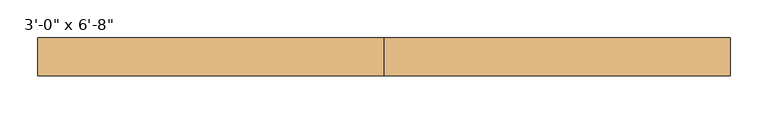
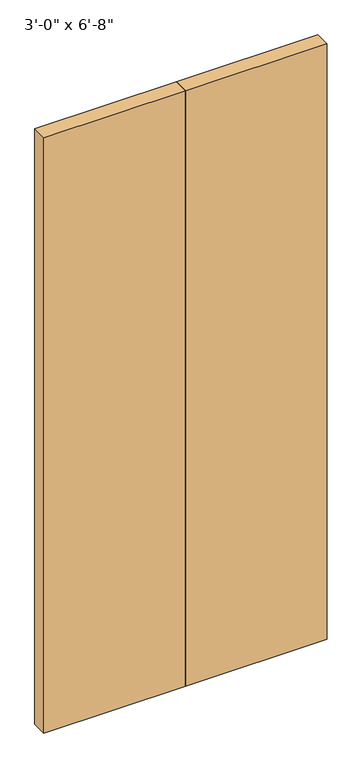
"""IFC4 building model written with IfcOpenShell, lengths in millimetres: door geometry."""

from ifc_helpers import new_model, si_unit, origin, origin_with_axes, place, context, project, spatial, polyline, outline, extrude, source, transform, mapped, element, save


def door_883b3292(model_context):
    return source(origin(), model_context, "Body", "SweptSolid", [
        extrude(outline(polyline([(0.0, 82.55), (457.2, 82.55), (457.2, 32.55), (0.0, 32.55), (0.0, 82.55)])), origin_with_axes(), (0.0, 0.0, 1.0), 2032.0),
        extrude(outline(polyline([(-457.2, 82.55), (0.0, 82.55), (0.0, 32.55), (-457.2, 32.55), (-457.2, 82.55)])), origin_with_axes(), (0.0, 0.0, 1.0), 2032.0),
    ])


if __name__ == "__main__":
    model = new_model("IFC4")
    model_context = context("Model", 3, world=origin())
    ifc_project = project(units=[si_unit("LENGTHUNIT", "METRE", prefix="MILLI")], contexts=[model_context])
    site = spatial("IfcSite", under=ifc_project)
    building = spatial("IfcBuilding", under=site)
    placement = place(None, origin())
    door_shape = door_883b3292(model_context)
    element("IfcDoor", 1, ObjectType="Planitar - Double Door_Flush Panel : 3'-0\" x 6'-8\"", at=placement, inside=building, context=model_context, shape_type="MappedRepresentation", body=[
        mapped(door_shape, transform((0.0, 0.0, 0.0), x_axis=(1.0, 0.0, 0.0), y_axis=(0.0, 1.0, 0.0), z_axis=(0.0, 0.0, 1.0))),
    ])
    save(model, "model.ifc")
